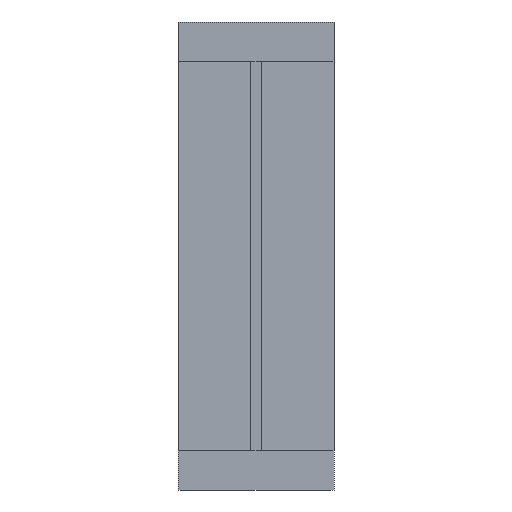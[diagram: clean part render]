
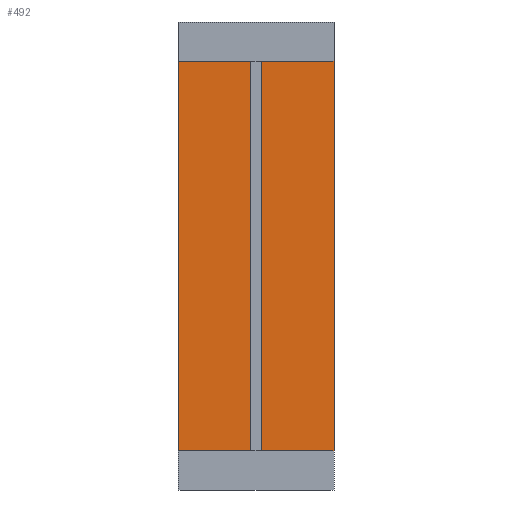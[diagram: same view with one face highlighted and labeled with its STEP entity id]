
A CAD part, front view. The second image highlights one B-rep face of the part: STEP entity #492.
In plain terms, the highlighted planar face has unit normal (0, -1, 0).
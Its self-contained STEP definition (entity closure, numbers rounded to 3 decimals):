
#37 = ORIENTED_EDGE ( 'NONE', *, *, #1393, .F. ) ;
#39 = VECTOR ( 'NONE', #124, 1000. ) ;
#49 = VERTEX_POINT ( 'NONE', #243 ) ;
#56 = CARTESIAN_POINT ( 'NONE',  ( -200., 520., 100. ) ) ;
#59 = LINE ( 'NONE', #649, #1370 ) ;
#62 = VECTOR ( 'NONE', #604, 1000. ) ;
#74 = VERTEX_POINT ( 'NONE', #334 ) ;
#85 = DIRECTION ( 'NONE',  ( 1., 0., 0. ) ) ;
#92 = DIRECTION ( 'NONE',  ( 0., 0., -1. ) ) ;
#118 = VECTOR ( 'NONE', #1065, 1000. ) ;
#121 = EDGE_CURVE ( 'NONE', #383, #1192, #1059, .T. ) ;
#124 = DIRECTION ( 'NONE',  ( 0., 0., 1. ) ) ;
#146 = CARTESIAN_POINT ( 'NONE',  ( 190., 520., 1100. ) ) ;
#151 = VECTOR ( 'NONE', #310, 1000. ) ;
#158 = ORIENTED_EDGE ( 'NONE', *, *, #949, .F. ) ;
#175 = DIRECTION ( 'NONE',  ( 0., 0., 1. ) ) ;
#176 = CARTESIAN_POINT ( 'NONE',  ( -190., 520., 1200. ) ) ;
#201 = CARTESIAN_POINT ( 'NONE',  ( -190., 520., 1100. ) ) ;
#204 = DIRECTION ( 'NONE',  ( 1., 0., 0. ) ) ;
#243 = CARTESIAN_POINT ( 'NONE',  ( 190., 520., 1200. ) ) ;
#246 = LINE ( 'NONE', #1106, #950 ) ;
#252 = CARTESIAN_POINT ( 'NONE',  ( 200., 520., 1100. ) ) ;
#271 = CARTESIAN_POINT ( 'NONE',  ( 0., 520., 0. ) ) ;
#276 = ORIENTED_EDGE ( 'NONE', *, *, #1388, .F. ) ;
#282 = ORIENTED_EDGE ( 'NONE', *, *, #933, .F. ) ;
#310 = DIRECTION ( 'NONE',  ( 0., 0., -1. ) ) ;
#318 = VECTOR ( 'NONE', #85, 1000. ) ;
#331 = LINE ( 'NONE', #471, #62 ) ;
#334 = CARTESIAN_POINT ( 'NONE',  ( -200., 520., 100. ) ) ;
#342 = VERTEX_POINT ( 'NONE', #583 ) ;
#353 = CARTESIAN_POINT ( 'NONE',  ( 200., 520., 100. ) ) ;
#383 = VERTEX_POINT ( 'NONE', #489 ) ;
#390 = LINE ( 'NONE', #146, #1417 ) ;
#399 = VECTOR ( 'NONE', #871, 1000. ) ;
#410 = DIRECTION ( 'NONE',  ( 0., 0., -1. ) ) ;
#411 = CARTESIAN_POINT ( 'NONE',  ( -200., 520., 1100. ) ) ;
#417 = DIRECTION ( 'NONE',  ( -1., 0., 0. ) ) ;
#421 = EDGE_CURVE ( 'NONE', #804, #342, #651, .T. ) ;
#435 = ORIENTED_EDGE ( 'NONE', *, *, #121, .F. ) ;
#462 = CARTESIAN_POINT ( 'NONE',  ( 190., 520., 1100. ) ) ;
#471 = CARTESIAN_POINT ( 'NONE',  ( 190., 520., 1200. ) ) ;
#489 = CARTESIAN_POINT ( 'NONE',  ( -190., 520., 0. ) ) ;
#492 = ADVANCED_FACE ( 'NONE', ( #1000 ), #1351, .T. ) ;
#507 = EDGE_CURVE ( 'NONE', #607, #964, #768, .T. ) ;
#508 = LINE ( 'NONE', #863, #39 ) ;
#535 = LINE ( 'NONE', #985, #151 ) ;
#574 = EDGE_CURVE ( 'NONE', #1334, #49, #1028, .T. ) ;
#583 = CARTESIAN_POINT ( 'NONE',  ( -190., 520., 1100. ) ) ;
#604 = DIRECTION ( 'NONE',  ( 0., 0., -1. ) ) ;
#607 = VERTEX_POINT ( 'NONE', #1041 ) ;
#644 = DIRECTION ( 'NONE',  ( 0., -1., 0. ) ) ;
#647 = VERTEX_POINT ( 'NONE', #353 ) ;
#649 = CARTESIAN_POINT ( 'NONE',  ( 200., 520., 100. ) ) ;
#651 = LINE ( 'NONE', #201, #713 ) ;
#662 = CARTESIAN_POINT ( 'NONE',  ( -190., 520., 1200. ) ) ;
#692 = LINE ( 'NONE', #1458, #1072 ) ;
#694 = ORIENTED_EDGE ( 'NONE', *, *, #775, .F. ) ;
#707 = CARTESIAN_POINT ( 'NONE',  ( -190., 520., 100. ) ) ;
#713 = VECTOR ( 'NONE', #204, 1000. ) ;
#748 = ORIENTED_EDGE ( 'NONE', *, *, #574, .F. ) ;
#749 = DIRECTION ( 'NONE',  ( 1., 0., 0. ) ) ;
#754 = ORIENTED_EDGE ( 'NONE', *, *, #421, .F. ) ;
#759 = DIRECTION ( 'NONE',  ( -1., 0., 0. ) ) ;
#768 = LINE ( 'NONE', #1231, #1098 ) ;
#772 = ORIENTED_EDGE ( 'NONE', *, *, #843, .F. ) ;
#775 = EDGE_CURVE ( 'NONE', #647, #607, #59, .T. ) ;
#804 = VERTEX_POINT ( 'NONE', #411 ) ;
#825 = ORIENTED_EDGE ( 'NONE', *, *, #1104, .F. ) ;
#843 = EDGE_CURVE ( 'NONE', #49, #890, #331, .T. ) ;
#863 = CARTESIAN_POINT ( 'NONE',  ( -190., 520., 1200. ) ) ;
#871 = DIRECTION ( 'NONE',  ( -1., 0., 0. ) ) ;
#885 = AXIS2_PLACEMENT_3D ( 'NONE', #271, #644, #410 ) ;
#890 = VERTEX_POINT ( 'NONE', #462 ) ;
#933 = EDGE_CURVE ( 'NONE', #342, #1334, #508, .T. ) ;
#944 = CARTESIAN_POINT ( 'NONE',  ( -190., 520., 100. ) ) ;
#949 = EDGE_CURVE ( 'NONE', #74, #804, #246, .T. ) ;
#950 = VECTOR ( 'NONE', #175, 1000. ) ;
#964 = VERTEX_POINT ( 'NONE', #1100 ) ;
#985 = CARTESIAN_POINT ( 'NONE',  ( 200., 520., 1100. ) ) ;
#1000 = FACE_OUTER_BOUND ( 'NONE', #1407, .T. ) ;
#1028 = LINE ( 'NONE', #662, #318 ) ;
#1041 = CARTESIAN_POINT ( 'NONE',  ( 190., 520., 100. ) ) ;
#1059 = LINE ( 'NONE', #707, #118 ) ;
#1065 = DIRECTION ( 'NONE',  ( 0., 0., 1. ) ) ;
#1072 = VECTOR ( 'NONE', #417, 1000. ) ;
#1098 = VECTOR ( 'NONE', #92, 1000. ) ;
#1100 = CARTESIAN_POINT ( 'NONE',  ( 190., 520., 0. ) ) ;
#1104 = EDGE_CURVE ( 'NONE', #1226, #647, #535, .T. ) ;
#1106 = CARTESIAN_POINT ( 'NONE',  ( -200., 520., 1100. ) ) ;
#1150 = EDGE_CURVE ( 'NONE', #964, #383, #692, .T. ) ;
#1178 = ORIENTED_EDGE ( 'NONE', *, *, #507, .F. ) ;
#1192 = VERTEX_POINT ( 'NONE', #944 ) ;
#1226 = VERTEX_POINT ( 'NONE', #252 ) ;
#1231 = CARTESIAN_POINT ( 'NONE',  ( 190., 520., 100. ) ) ;
#1254 = ORIENTED_EDGE ( 'NONE', *, *, #1150, .F. ) ;
#1334 = VERTEX_POINT ( 'NONE', #176 ) ;
#1351 = PLANE ( 'NONE',  #885 ) ;
#1370 = VECTOR ( 'NONE', #759, 1000. ) ;
#1388 = EDGE_CURVE ( 'NONE', #890, #1226, #390, .T. ) ;
#1393 = EDGE_CURVE ( 'NONE', #1192, #74, #1425, .T. ) ;
#1407 = EDGE_LOOP ( 'NONE', ( #158, #37, #435, #1254, #1178, #694, #825, #276, #772, #748, #282, #754 ) ) ;
#1417 = VECTOR ( 'NONE', #749, 1000. ) ;
#1425 = LINE ( 'NONE', #56, #399 ) ;
#1458 = CARTESIAN_POINT ( 'NONE',  ( -190., 520., 0. ) ) ;
